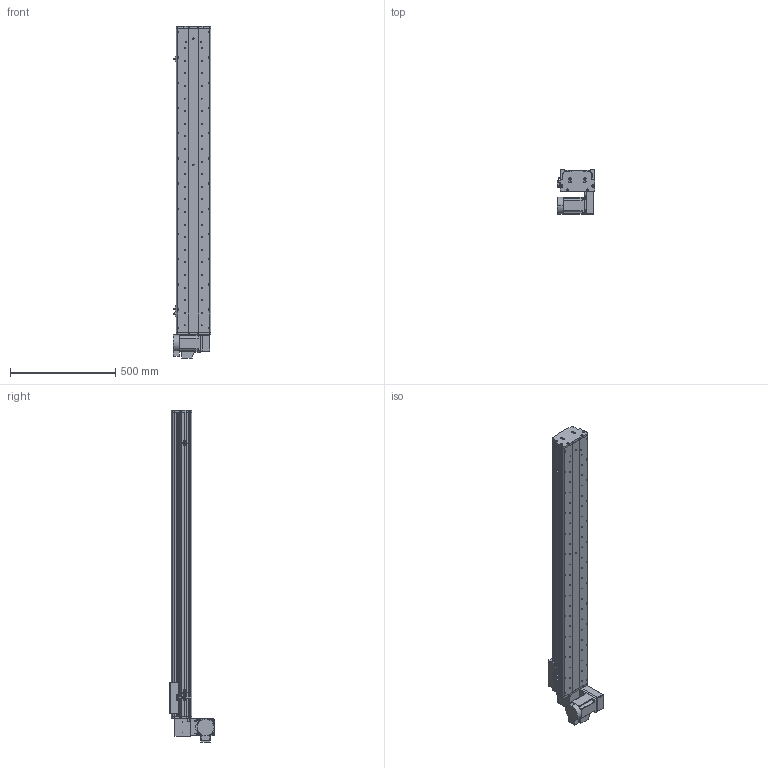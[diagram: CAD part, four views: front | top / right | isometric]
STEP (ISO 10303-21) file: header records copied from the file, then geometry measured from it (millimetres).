
FILE_DESCRIPTION (( 'STEP AP214' ), '1' );
FILE_NAME ('KSD165B-S1200-MRD-CM.STEP', '2017-10-17T00:41:07', ( '微软用户' ), ( '微软中国' ), 'SwSTEP 2.0', 'SolidWorks 2014', '' );
FILE_SCHEMA (( 'AUTOMOTIVE_DESIGN' ));
Length unit declared in the file: millimetre
Products named in the file (18): KSD165耀郪-ヶ傷啣1-肮祭湍; KSD165模组-后端板1-同步带; KSD165模组-防尘板支撑座1; KSD165模组-同步带滑动座-最新版; KSD165B-S1200-MRD-CM; 130宽模组马达安装板连板上下折丝杆同步带; 130宽模组保护罩上下左右折-同步带; HTPA26S5M250-A-H8 750W萇儂蚚; HTPA26S5M250-A-H8 400W萇儂蚚 ; KSD165模组-同步带防尘盖1-1200行程; KSD165模组同步带底板-1200行程; 拸秶雄ん750W侜督萇儂; 165宽马达安装板同步带右; U倰嫖萇假蚾璃; U倰嫖萇EEㄜSX672; 覜茼え68遵圉猾敕; KSD165模组-同步带-防撞垫2; KSD165模组同步带-防撞垫1
Assembly tree (21 placements, depth 2):
  KSD165B-S1200-MRD-CM
    KSD165模组-同步带滑动座-最新版
    KSD165模组-防尘板支撑座1
    KSD165模组-后端板1-同步带
    KSD165耀郪-ヶ傷啣1-肮祭湍
    KSD165模组同步带-防撞垫1
    KSD165模组-同步带-防撞垫2
    覜茼え68遵圉猾敕
    U倰嫖萇EEㄜSX672  x3
    U倰嫖萇假蚾璃  x3
    165宽马达安装板同步带右
    拸秶雄ん750W侜督萇儂
    KSD165模组同步带底板-1200行程
    KSD165模组-同步带防尘盖1-1200行程
    HTPA26S5M250-A-H8 400W萇儂蚚 
    HTPA26S5M250-A-H8 750W萇儂蚚
    130宽模组保护罩上下左右折-同步带
    130宽模组马达安装板连板上下折丝杆同步带
Bounding box: 178.7 x 210 x 1580.5 mm (x, y, z)
Volume: 8829244.6 mm3; surface area: 2059456.8 mm2
Topology: 22 solids, 22 shells, 2037 faces, 5750 edges, 3754 vertices
Faces by surface type: cylinder 1315, plane 606, cone 116
Entity records: 66574 total; most frequent: CARTESIAN_POINT 13615, DIRECTION 10900, ORIENTED_EDGE 10152, EDGE_CURVE 5076, AXIS2_PLACEMENT_3D 4277, VERTEX_POINT 3346, CIRCLE 2436, VECTOR 2346
